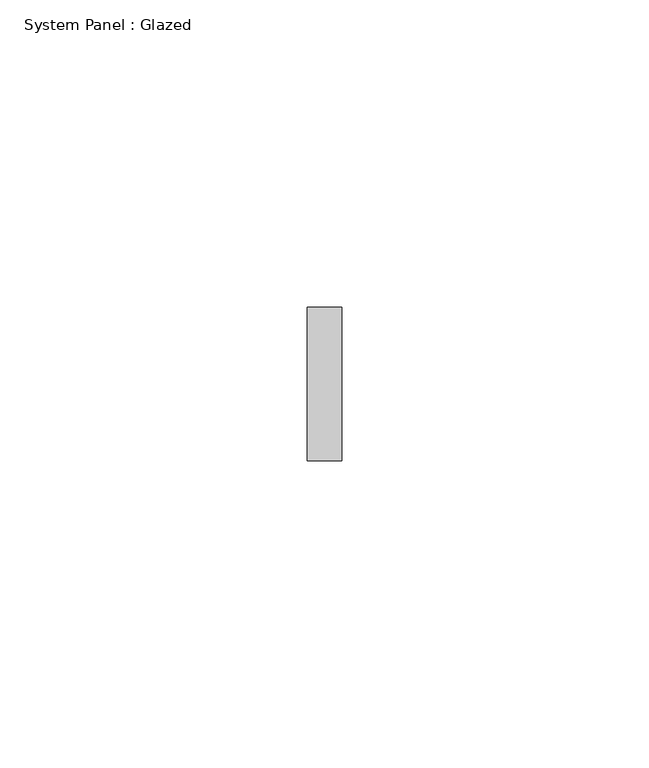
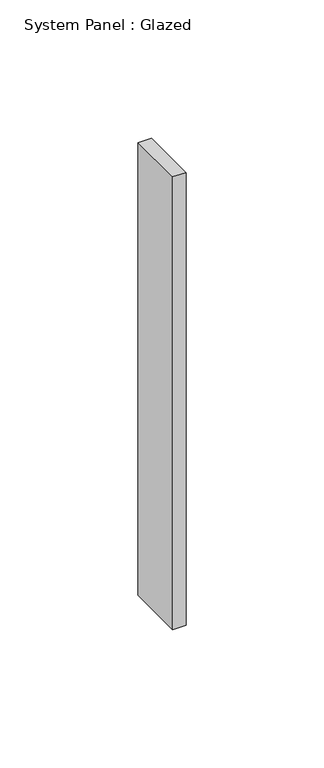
"""IFC4 building model written with IfcOpenShell, lengths in millimetres: plate geometry, System Panel : Glazed."""

import ifcopenshell
import ifcopenshell.guid

model = None  # the IFC model being written
_history = None  # IfcOwnerHistory: only IFC2X3 demands one
_inside = {}  # id of a spatial element -> (the spatial element, [elements in it])
_under = {}  # id of a project, library or spatial element -> (it, [spatial elements below it])
_declared = {}  # id of a project -> (the project, [libraries it declares])
_typed = {}  # id of a type object -> (the type object, [elements of that type])
_made_of = {}  # id of a material, layer set ... -> (it, [elements and type objects made of it])


def new_model(schema):
    """Start an empty IFC model of exactly this schema.

    Asked for "IFC4X3", IfcOpenShell would pick the latest addendum, in which some entities
    have other attributes; the version numbers below select the first issue.
    IFC2X3 requires an IfcOwnerHistory on every rooted entity: one is made here for all.
    """
    global model, _history
    if schema == "IFC4X3":
        model = ifcopenshell.file(schema_version=(4, 3, 0, 0))
    else:
        model = ifcopenshell.file(schema=schema)
    _inside.clear()
    _under.clear()
    _declared.clear()
    _typed.clear()
    _made_of.clear()
    _history = None
    if model.schema == "IFC2X3":
        org = make("IfcOrganization", Name="unknown")
        user = make(
            "IfcPersonAndOrganization",
            ThePerson=make("IfcPerson", FamilyName="unknown"),
            TheOrganization=org,
        )
        app = make(
            "IfcApplication",
            ApplicationDeveloper=org,
            Version="unknown",
            ApplicationFullName="unknown",
            ApplicationIdentifier="unknown",
        )
        _history = make(
            "IfcOwnerHistory",
            OwningUser=user,
            OwningApplication=app,
            ChangeAction="ADDED",
            CreationDate=0,
        )
    return model


def make(cls, **values):
    """One entity of the class cls with the attributes given. An attribute that is None is left unset."""
    return model.create_entity(
        cls, **{name: value for name, value in values.items() if value is not None}
    )


def rooted(cls, **values):
    """An entity with a GlobalId (a new one), such as an element, a storey or a relation."""
    return make(cls, GlobalId=ifcopenshell.guid.new(), OwnerHistory=_history, **values)


def si_unit(unit_type, name, prefix=None):
    """IfcSIUnit, for example si_unit("LENGTHUNIT", "METRE", prefix="MILLI")."""
    return make("IfcSIUnit", UnitType=unit_type, Prefix=prefix, Name=name)


def assignment(units):
    """IfcUnitAssignment: the units of a project."""
    return None if units is None else make("IfcUnitAssignment", Units=units)


def point(xyz):
    """IfcCartesianPoint."""
    return None if xyz is None else make("IfcCartesianPoint", Coordinates=xyz)


def direction(xyz):
    """IfcDirection."""
    return None if xyz is None else make("IfcDirection", DirectionRatios=xyz)


def frame(location, z_axis=None, x_axis=None):
    """IfcAxis2Placement3D, a coordinate frame: its origin and axes. An axis left out is left unset."""
    return make(
        "IfcAxis2Placement3D",
        Location=point(location),
        Axis=direction(z_axis),
        RefDirection=direction(x_axis),
    )


def origin():
    """The frame at (0, 0, 0) with its axes left unset."""
    return frame((0.0, 0.0, 0.0))


def origin_with_axes():
    """The frame at (0, 0, 0) with the z axis (0, 0, 1) and the x axis (1, 0, 0) written out."""
    return frame((0.0, 0.0, 0.0), z_axis=(0.0, 0.0, 1.0), x_axis=(1.0, 0.0, 0.0))


def place(relative_to, where):
    """IfcLocalPlacement: puts the frame where relative to a parent placement (None: the world)."""
    return make(
        "IfcLocalPlacement", PlacementRelTo=relative_to, RelativePlacement=where
    )


def context(
    kind, dimensions, precision=None, world=None, true_north=None, identifier=None
):
    """IfcGeometricRepresentationContext, for example the 3D "Model" context."""
    return make(
        "IfcGeometricRepresentationContext",
        ContextIdentifier=identifier,
        ContextType=kind,
        CoordinateSpaceDimension=dimensions,
        Precision=precision,
        WorldCoordinateSystem=world,
        TrueNorth=true_north,
    )


def project(units=None, contexts=None):
    """IfcProject with its units and contexts."""
    return rooted(
        "IfcProject",
        Name="project",
        RepresentationContexts=contexts,
        UnitsInContext=assignment(units),
    )


def spatial(cls, under=None, at=None, **own):
    """A site, building, storey or space (cls), placed at a placement, below another one or the project."""
    s = rooted(cls, ObjectPlacement=at, **own)
    if under is not None:
        _under.setdefault(under.id(), (under, []))[1].append(s)
    return s


def polyline(points):
    """IfcPolyline through the points."""
    return make("IfcPolyline", Points=[point(p) for p in points])


def outline(outer, holes=None, kind="AREA"):
    """IfcArbitraryClosedProfileDef: a profile drawn as a closed curve; with holes, ...WithVoids."""
    if holes is None:
        return make("IfcArbitraryClosedProfileDef", ProfileType=kind, OuterCurve=outer)
    return make(
        "IfcArbitraryProfileDefWithVoids",
        ProfileType=kind,
        OuterCurve=outer,
        InnerCurves=holes,
    )


def extrude(swept, where, along, depth):
    """IfcExtrudedAreaSolid: the profile swept, set in the frame where, extruded along a direction by depth."""
    return make(
        "IfcExtrudedAreaSolid",
        SweptArea=swept,
        Position=where,
        ExtrudedDirection=direction(along),
        Depth=depth,
    )


def shape(context_of_items, identifier, shape_type, items):
    """IfcShapeRepresentation: the items that make up one representation, for example the "Body"."""
    return make(
        "IfcShapeRepresentation",
        ContextOfItems=context_of_items,
        RepresentationIdentifier=identifier,
        RepresentationType=shape_type,
        Items=items,
    )


def source(mapping_origin, context_of_items, identifier, shape_type, items):
    """IfcRepresentationMap: a shape defined once, which mapped items show again and again."""
    return make(
        "IfcRepresentationMap",
        MappingOrigin=mapping_origin,
        MappedRepresentation=shape(context_of_items, identifier, shape_type, items),
    )


def transform(
    local_origin,
    x_axis=None,
    y_axis=None,
    z_axis=None,
    scale=None,
    scale2=None,
    scale3=None,
    uniform=True,
):
    """IfcCartesianTransformationOperator3D, or its non-uniform kind. x_axis, y_axis, z_axis: its Axis1, 2, 3."""
    if uniform:
        return make(
            "IfcCartesianTransformationOperator3D",
            Axis1=direction(x_axis),
            Axis2=direction(y_axis),
            LocalOrigin=point(local_origin),
            Scale=scale,
            Axis3=direction(z_axis),
        )
    return make(
        "IfcCartesianTransformationOperator3DnonUniform",
        Axis1=direction(x_axis),
        Axis2=direction(y_axis),
        LocalOrigin=point(local_origin),
        Scale=scale,
        Axis3=direction(z_axis),
        Scale2=scale2,
        Scale3=scale3,
    )


def mapped(mapping_source, mapping_target):
    """IfcMappedItem: shows the shape of a source again, moved by a transform."""
    return make(
        "IfcMappedItem", MappingSource=mapping_source, MappingTarget=mapping_target
    )


def made_of(thing, what):
    """Note that an element or type object is made of a material, layer set ...; save() writes the relation."""
    if what is not None:
        _made_of.setdefault(what.id(), (what, []))[1].append(thing)
    return thing


def element(
    cls,
    number,
    at=None,
    inside=None,
    cuts=None,
    type_object=None,
    material=None,
    context=None,
    identifier="Body",
    shape_type=None,
    held_by="IfcProductDefinitionShape",
    body=None,
    shapes=None,
    **own,
):
    """One element of the class cls, such as IfcWall. Its Tag is "e" and its number.

    at: its placement. inside: the storey or other place that contains it. cuts: it is an
    opening in that element (IfcRelVoidsElement). A single representation is given by context,
    identifier, shape_type and body (its items); several are given by shapes. held_by: the class
    of the entity that holds the representations. save() writes the other relations.
    """
    e = rooted(cls, Tag="e%d" % number, ObjectPlacement=at, **own)
    if body is not None:
        shapes = [shape(context, identifier, shape_type, body)]
    if shapes is not None:
        e.Representation = make(held_by, Representations=shapes)
    if inside is not None:
        _inside.setdefault(inside.id(), (inside, []))[1].append(e)
    if cuts is not None:
        rooted(
            "IfcRelVoidsElement", RelatingBuildingElement=cuts, RelatedOpeningElement=e
        )
    if type_object is not None:
        _typed.setdefault(type_object.id(), (type_object, []))[1].append(e)
    return made_of(e, material)


def aggregate(whole, parts):
    """IfcRelAggregates: a whole, such as a stair, and the parts it consists of."""
    return rooted("IfcRelAggregates", RelatingObject=whole, RelatedObjects=parts)


def save(model, path):
    """Write the relations noted so far, then the file.

    IfcRelAggregates (storeys below a building ...), IfcRelContainedInSpatialStructure (elements
    in a storey), IfcRelDefinesByType, IfcRelAssociatesMaterial and IfcRelDeclares: one each for
    every whole, place, type object, material and project.
    """
    for whole, parts in _under.values():
        aggregate(whole, parts)
    for where, things in _inside.values():
        rooted(
            "IfcRelContainedInSpatialStructure",
            RelatedElements=things,
            RelatingStructure=where,
        )
    for kind, things in _typed.values():
        rooted("IfcRelDefinesByType", RelatedObjects=things, RelatingType=kind)
    for what, things in _made_of.values():
        rooted("IfcRelAssociatesMaterial", RelatedObjects=things, RelatingMaterial=what)
    for by, libraries in _declared.values():
        rooted("IfcRelDeclares", RelatingContext=by, RelatedDefinitions=libraries)
    model.write(path)


def system_panel_glazed_b6ab2c9f(model_context):
    return source(origin(), model_context, "Body", "SweptSolid", [
        extrude(outline(polyline([(2.8074819, 24.5), (-2.8074819, 24.5), (-2.8074819, 49.5), (2.8074819, 49.5), (2.8074819, 24.5)])), origin_with_axes(), (0.0, 0.0, 1.0), 200.0),
    ])


if __name__ == "__main__":
    model = new_model("IFC4")
    model_context = context("Model", 3, world=origin())
    ifc_project = project(units=[si_unit("LENGTHUNIT", "METRE", prefix="MILLI")], contexts=[model_context])
    site = spatial("IfcSite", under=ifc_project)
    building = spatial("IfcBuilding", under=site)
    placement = place(None, origin())
    system_panel_glazed_shape = system_panel_glazed_b6ab2c9f(model_context)
    element("IfcPlate", 1, ObjectType="System Panel : Glazed", at=placement, inside=building, context=model_context, shape_type="MappedRepresentation", body=[
        mapped(system_panel_glazed_shape, transform((0.0, 0.0, 0.0), x_axis=(1.0, 0.0, 0.0), y_axis=(0.0, 1.0, 0.0), z_axis=(0.0, 0.0, 1.0))),
    ])
    save(model, "model.ifc")
